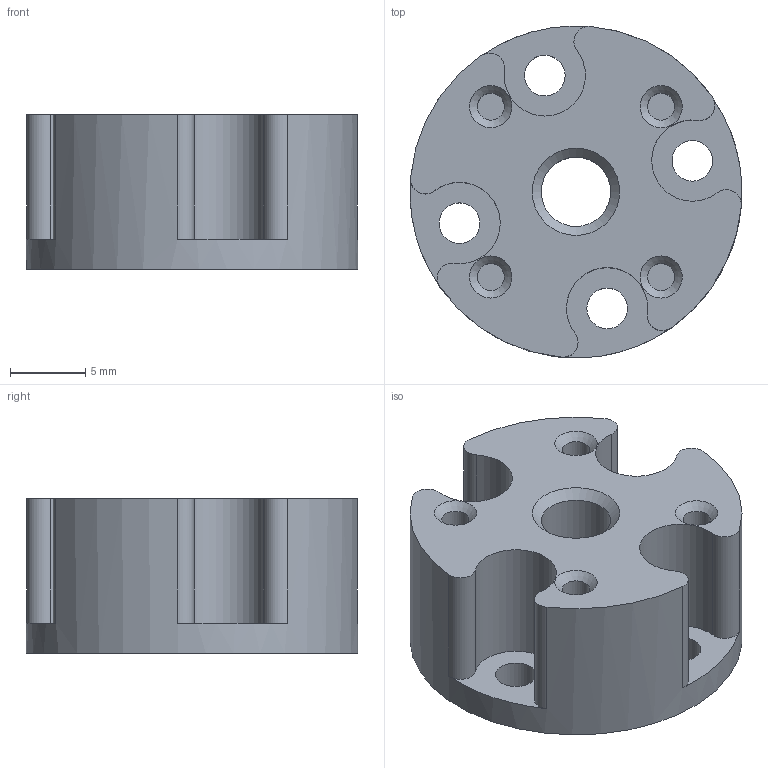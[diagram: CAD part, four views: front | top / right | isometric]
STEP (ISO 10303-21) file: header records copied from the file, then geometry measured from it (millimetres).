
FILE_DESCRIPTION(/* description */ ('CAx-IF Rec.Pracs.---Representation and Presentation of Product Manufacturing Information (PMI)---4.0---2014-10-13','CAx-IF Rec.Pracs.---3D Tessellated Geometry---0.4---2014-09-14','2;1'),/* implementation_level */ '2;1');
FILE_NAME(/* name */ 'Bereza 1 Goliath adapter',/* time_stamp */ '2025-06-16T17:40:29+03:00',/* author */ (''),/* organization */ (''),/* preprocessor_version */ 'ST-DEVELOPER v20',/* originating_system */ 'SIEMENS PLM Software NX2406.6001',/* authorisation */ $);
FILE_SCHEMA (('AP242_MANAGED_MODEL_BASED_3D_ENGINEERING_MIM_LF { 1 0 10303 442 3 1 4 }'));
Length unit declared in the file: millimetre
Products named in the file (1): Bereza 1 Goliath adapter
Bounding box: 22.04 x 22.03 x 10.25 mm (x, y, z)
Volume: 2715.1 mm3; surface area: 2025.7 mm2
Topology: 1 solids, 1 shells, 38 faces, 96 edges, 64 vertices
Faces by surface type: cylinder 22, plane 10, cone 6
Full cylindrical faces by diameter (mm): 1.8 x4, 2.7 x4, 4.6 x1, 22.04 x1
Entity records: 1098 total; most frequent: DIRECTION 208, CARTESIAN_POINT 171, ORIENTED_EDGE 146, AXIS2_PLACEMENT_3D 96, EDGE_CURVE 73, EDGE_LOOP 68, FACE_BOUND 68, VERTEX_POINT 57
